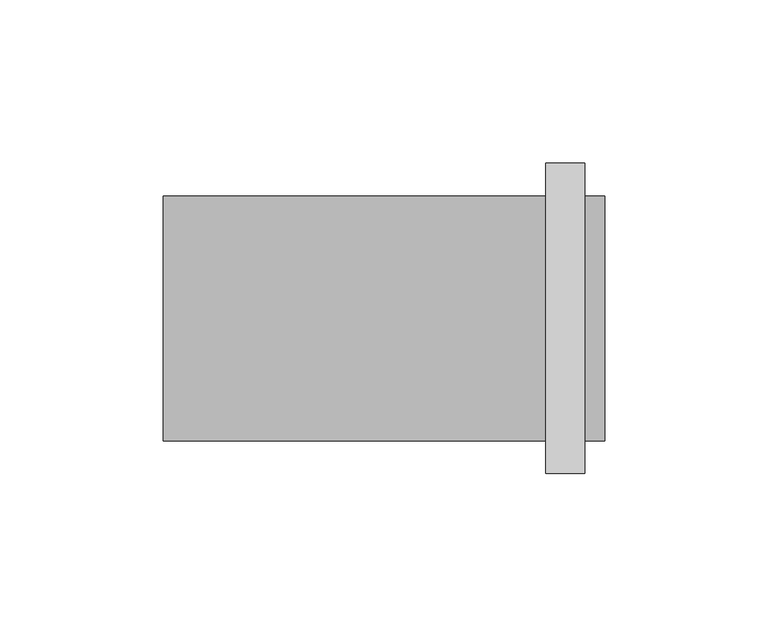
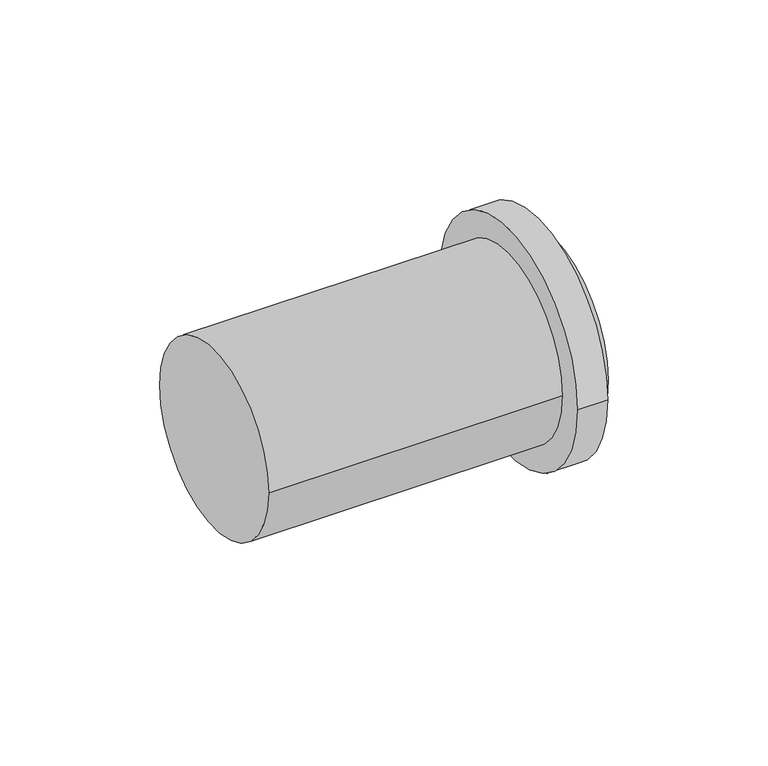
"""IFC4 building model written with IfcOpenShell, lengths in millimetres: pipe fitting geometry, pf_HT : pf_HT."""

from ifc_helpers import new_model, si_unit, point, frame, origin, origin_2d, place, context, project, spatial, circle_curve, trimmed, segment, composite_curve, outline, extrude, source, transform, mapped, element, save


def pipe_fitting_f5e5154a(model_context):
    return source(origin(), model_context, "Body", "SweptSolid", [
        extrude(outline(composite_curve([segment(trimmed(circle_curve(origin_2d(), 47.5), [point((-47.5, 0.0))], [point((47.5, 0.0))], False, "CARTESIAN"), True, "CONTINUOUS"), segment(trimmed(circle_curve(origin_2d(), 47.5), [point((47.5, 0.0))], [point((-47.5, 0.0))], False, "CARTESIAN"), True, "CONTINUOUS")], self_intersect=False)), frame((49.5, 0.0, 0.0), z_axis=(1.0, 0.0, 0.0), x_axis=(0.0, 1.0, 0.0)), (0.0, 0.0, 1.0), 12.0),
        extrude(outline(composite_curve([segment(trimmed(circle_curve(origin_2d(), 37.5), [point((-37.5, 0.0))], [point((37.5, 0.0))], False, "CARTESIAN"), True, "CONTINUOUS"), segment(trimmed(circle_curve(origin_2d(), 37.5), [point((37.5, 0.0))], [point((-37.5, 0.0))], False, "CARTESIAN"), True, "CONTINUOUS")], self_intersect=False)), frame((-67.5, 0.0, 0.0), z_axis=(1.0, 0.0, 0.0), x_axis=(0.0, 1.0, 0.0)), (0.0, 0.0, 1.0), 135.0),
    ])


if __name__ == "__main__":
    model = new_model("IFC4")
    model_context = context("Model", 3, world=origin())
    ifc_project = project(units=[si_unit("LENGTHUNIT", "METRE", prefix="MILLI")], contexts=[model_context])
    site = spatial("IfcSite", under=ifc_project)
    building = spatial("IfcBuilding", under=site)
    placement = place(None, origin())
    pipe_fitting_shape = pipe_fitting_f5e5154a(model_context)
    element("IfcPipeFitting", 1, ObjectType="pf_HT : pf_HT", at=placement, inside=building, context=model_context, shape_type="MappedRepresentation", body=[
        mapped(pipe_fitting_shape, transform((0.0, 0.0, 0.0), x_axis=(1.0, 0.0, 0.0), y_axis=(0.0, 1.0, 0.0), z_axis=(0.0, 0.0, 1.0))),
    ])
    save(model, "model.ifc")
